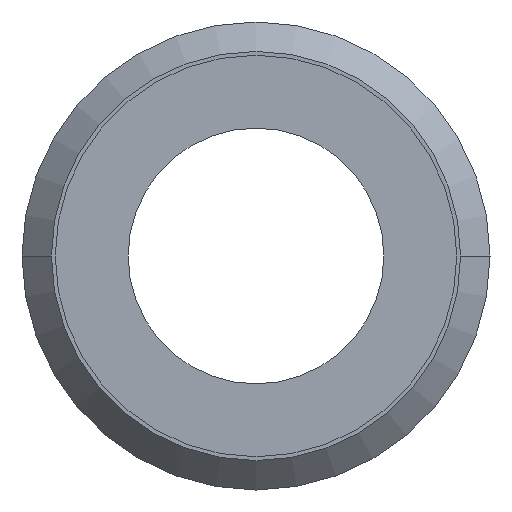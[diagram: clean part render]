
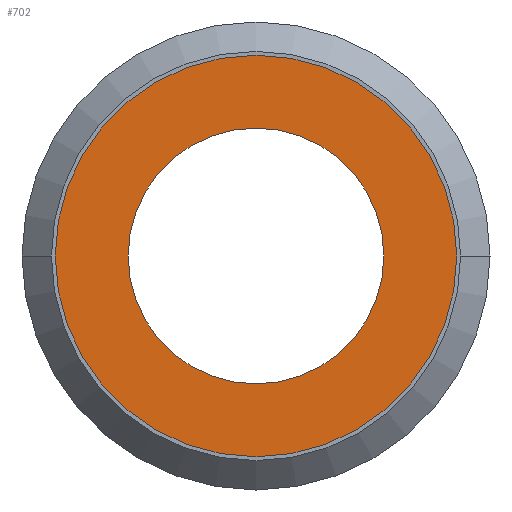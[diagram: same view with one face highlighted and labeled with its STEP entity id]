
A CAD part, left-side view. The second image highlights one B-rep face of the part: STEP entity #702.
In plain terms, the highlighted planar face has unit normal (-1, 0, 0).
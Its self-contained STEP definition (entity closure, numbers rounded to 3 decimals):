
#190=CARTESIAN_POINT('',(-19.65,0.,0.));
#191=DIRECTION('',(-1.,0.,0.));
#192=DIRECTION('',(0.,1.,0.));
#193=AXIS2_PLACEMENT_3D('',#190,#191,#192);
#195=CARTESIAN_POINT('',(-19.65,0.,0.));
#196=DIRECTION('',(-1.,0.,0.));
#197=DIRECTION('',(0.,-1.,0.));
#198=AXIS2_PLACEMENT_3D('',#195,#196,#197);
#200=CARTESIAN_POINT('',(-19.65,0.,0.));
#201=DIRECTION('',(-1.,0.,0.));
#202=DIRECTION('',(0.,-1.,0.));
#203=AXIS2_PLACEMENT_3D('',#200,#201,#202);
#205=CARTESIAN_POINT('',(-19.65,0.,0.));
#206=DIRECTION('',(-1.,0.,0.));
#207=DIRECTION('',(0.,1.,0.));
#208=AXIS2_PLACEMENT_3D('',#205,#206,#207);
#337=CARTESIAN_POINT('',(-19.65,7.85,0.));
#338=CARTESIAN_POINT('',(-19.65,-7.85,0.));
#339=VERTEX_POINT('',#337);
#340=VERTEX_POINT('',#338);
#369=CARTESIAN_POINT('',(-19.65,-5.,0.));
#370=CARTESIAN_POINT('',(-19.65,5.,0.));
#371=VERTEX_POINT('',#369);
#372=VERTEX_POINT('',#370);
#686=CARTESIAN_POINT('',(-19.65,0.,0.));
#687=DIRECTION('',(-1.,0.,0.));
#688=DIRECTION('',(0.,1.,0.));
#689=AXIS2_PLACEMENT_3D('',#686,#687,#688);
#690=PLANE('',#689);
#692=ORIENTED_EDGE('',*,*,#691,.F.);
#694=ORIENTED_EDGE('',*,*,#693,.F.);
#695=EDGE_LOOP('',(#692,#694));
#696=FACE_OUTER_BOUND('',#695,.F.);
#697=ORIENTED_EDGE('',*,*,#676,.T.);
#699=ORIENTED_EDGE('',*,*,#698,.T.);
#700=EDGE_LOOP('',(#697,#699));
#701=FACE_BOUND('',#700,.F.);
#702=ADVANCED_FACE('',(#696,#701),#690,.T.);
#194=CIRCLE('',#193,7.85);
#199=CIRCLE('',#198,7.85);
#204=CIRCLE('',#203,5.);
#209=CIRCLE('',#208,5.);
#676=EDGE_CURVE('',#371,#372,#204,.T.);
#691=EDGE_CURVE('',#339,#340,#194,.T.);
#693=EDGE_CURVE('',#340,#339,#199,.T.);
#698=EDGE_CURVE('',#372,#371,#209,.T.);
